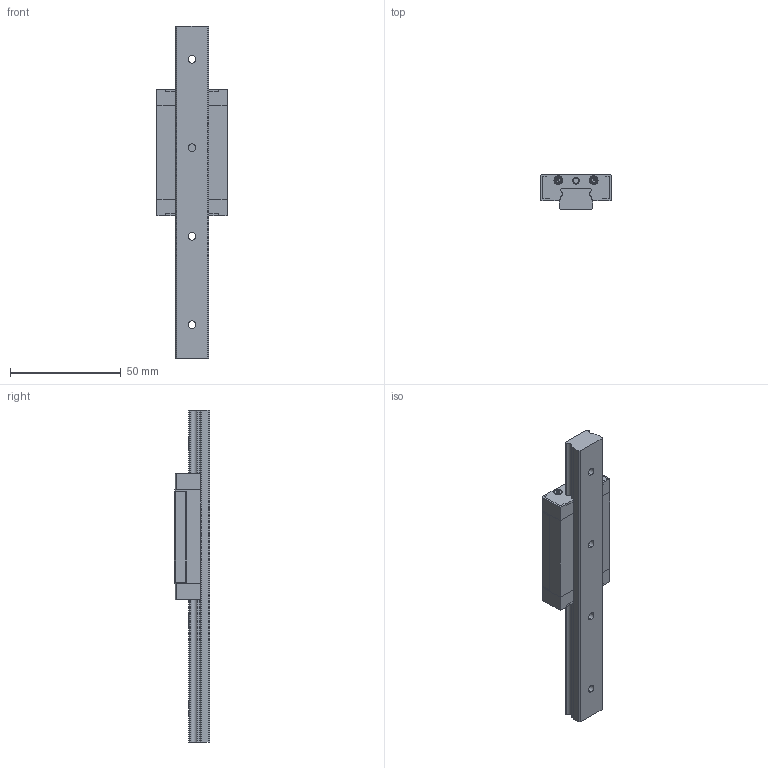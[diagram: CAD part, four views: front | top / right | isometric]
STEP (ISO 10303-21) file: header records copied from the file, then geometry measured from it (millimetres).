
FILE_DESCRIPTION (( 'STEP AP214' ), '1' );
FILE_NAME ('FBXX15NH-SS.STEP', '2022-08-06T22:06:52', ( 'JST' ), ( 'JST' ), 'SwSTEP 2.0', 'SolidWorks 2016', '' );
FILE_SCHEMA (( 'AUTOMOTIVE_DESIGN' ));
Length unit declared in the file: millimetre
Products named in the file (8): 15NH-SS賑輸; 15NH-SS滅鳥え; 15NH傷裔; 15NH賑輸; 15N絳寢; 15NH悜遠釱; FBXX15NH-SS; M2.0蹟佪
Assembly tree (12 placements, depth 3):
  FBXX15NH-SS
    15N絳寢
    15NH-SS賑輸
      15NH賑輸
      15NH悜遠釱
      15NH傷裔  x2
      M2.0蹟佪  x4
      15NH-SS滅鳥え  x2
Bounding box: 32 x 16 x 150 mm (x, y, z)
Volume: 36316.3 mm3; surface area: 20926.5 mm2
Topology: 11 solids, 11 shells, 552 faces, 1508 edges, 988 vertices
Faces by surface type: cylinder 265, plane 235, cone 32, bspline 12, torus 8
Entity records: 12574 total; most frequent: CARTESIAN_POINT 4981, ORIENTED_EDGE 1502, DIRECTION 1421, EDGE_CURVE 751, VERTEX_POINT 492, VECTOR 491, LINE 491, AXIS2_PLACEMENT_3D 465
